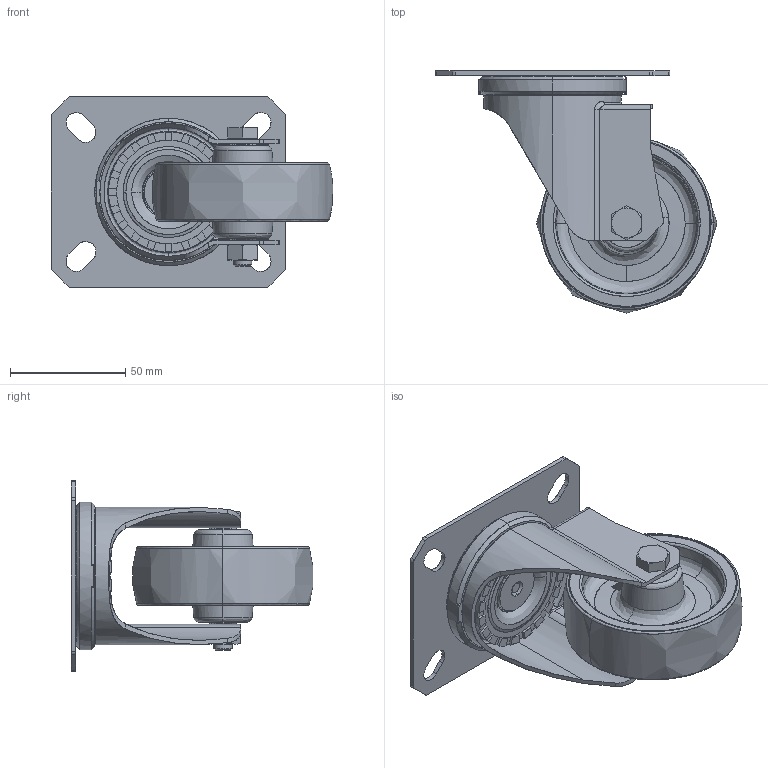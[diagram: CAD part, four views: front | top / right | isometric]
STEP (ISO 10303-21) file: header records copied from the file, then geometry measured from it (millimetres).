
FILE_DESCRIPTION(('STEP AP203'),'2;1');
FILE_NAME('21127_CL.stp','2011-07-28T15:56:53',(''),(''),'2009.3.110','THINKDESIGN','');
FILE_SCHEMA(('CONFIG_CONTROL_DESIGN'));
Length unit declared in the file: millimetre
Bounding box: 122.38 x 105.02 x 83 mm (x, y, z)
Volume: 6306.1 mm3; surface area: 69445.9 mm2
Topology: 3 solids, 3 shells, 374 faces, 2292 edges, 2243 vertices
Faces by surface type: plane 160, bspline 130, cylinder 84
Full cylindrical faces by diameter (mm): 6.647 x1, 8 x1, 9 x1, 11.63 x1, 12 x1
Entity records: 23881 total; most frequent: CARTESIAN_POINT 14528, COMPOSITE_CURVE_SEGMENT 2169, DIRECTION 1738, TRIMMED_CURVE 895, VECTOR 698, LINE 698, AXIS2_PLACEMENT_3D 520, B_SPLINE_CURVE_WITH_KNOTS 366
